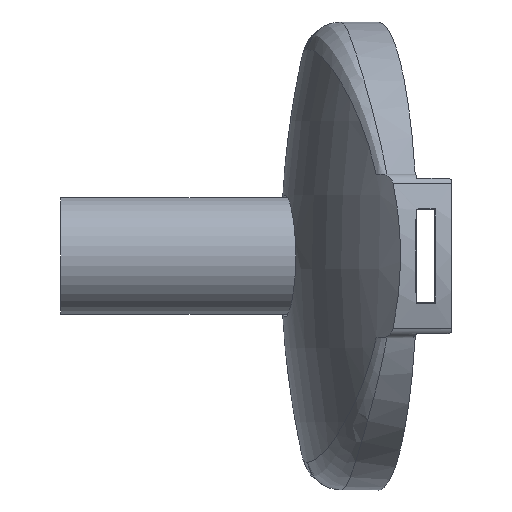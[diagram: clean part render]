
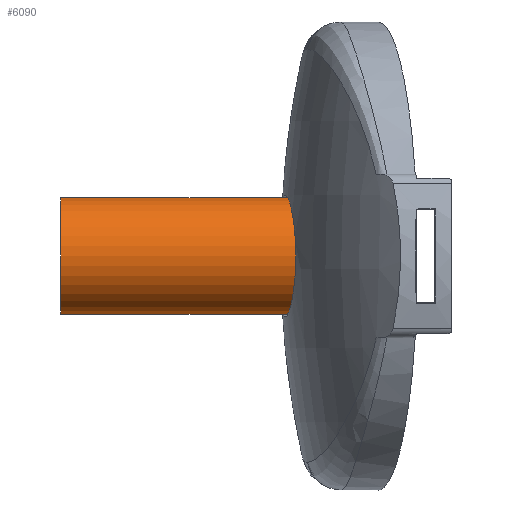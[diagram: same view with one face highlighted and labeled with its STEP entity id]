
A CAD part, left-side view. The second image highlights one B-rep face of the part: STEP entity #6090.
In plain terms, the highlighted cylindrical face has radius 12.5 mm (diameter 25 mm), a partial arc.
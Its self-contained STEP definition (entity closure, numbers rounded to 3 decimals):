
#67 = EDGE_CURVE ( 'NONE', #7970, #6745, #4423, .T. ) ;
#219 = CARTESIAN_POINT ( 'NONE',  ( 0., 0., 0. ) ) ;
#283 = CARTESIAN_POINT ( 'NONE',  ( 0., 60.746, 12.5 ) ) ;
#339 = DIRECTION ( 'NONE',  ( 0., 1., 0. ) ) ;
#544 = EDGE_CURVE ( 'NONE', #7970, #11025, #11730, .T. ) ;
#1193 = VECTOR ( 'NONE', #12250, 1000. ) ;
#1376 = CARTESIAN_POINT ( 'NONE',  ( 0., 0., 12.5 ) ) ;
#1421 = CARTESIAN_POINT ( 'NONE',  ( 0., 60.746, 0. ) ) ;
#1447 = DIRECTION ( 'NONE',  ( 0., 0., 1. ) ) ;
#3186 = ORIENTED_EDGE ( 'NONE', *, *, #544, .T. ) ;
#3192 = VECTOR ( 'NONE', #339, 1000. ) ;
#3382 = EDGE_LOOP ( 'NONE', ( #13459, #3186, #11037, #15512 ) ) ;
#4423 = LINE ( 'NONE', #12233, #1193 ) ;
#4450 = CYLINDRICAL_SURFACE ( 'NONE', #10320, 12.5 ) ;
#4937 = CARTESIAN_POINT ( 'NONE',  ( 0., -51., 12.5 ) ) ;
#6090 = ADVANCED_FACE ( 'NONE', ( #9015 ), #4450, .T. ) ;
#6745 = VERTEX_POINT ( 'NONE', #11290 ) ;
#7805 = CARTESIAN_POINT ( 'NONE',  ( 0., -51., -12.5 ) ) ;
#7835 = EDGE_CURVE ( 'NONE', #6745, #8114, #15041, .T. ) ;
#7970 = VERTEX_POINT ( 'NONE', #7805 ) ;
#8114 = VERTEX_POINT ( 'NONE', #1376 ) ;
#8663 = DIRECTION ( 'NONE',  ( 0., 0., 1. ) ) ;
#8674 = DIRECTION ( 'NONE',  ( 0., 1., 0. ) ) ;
#8693 = CARTESIAN_POINT ( 'NONE',  ( 0., -51., 0. ) ) ;
#8888 = DIRECTION ( 'NONE',  ( 0., 0., 1. ) ) ;
#8916 = DIRECTION ( 'NONE',  ( 0., 1., 0. ) ) ;
#9015 = FACE_OUTER_BOUND ( 'NONE', #3382, .T. ) ;
#9896 = LINE ( 'NONE', #283, #3192 ) ;
#10320 = AXIS2_PLACEMENT_3D ( 'NONE', #1421, #11423, #8888 ) ;
#11025 = VERTEX_POINT ( 'NONE', #4937 ) ;
#11037 = ORIENTED_EDGE ( 'NONE', *, *, #13635, .T. ) ;
#11251 = AXIS2_PLACEMENT_3D ( 'NONE', #219, #8916, #1447 ) ;
#11290 = CARTESIAN_POINT ( 'NONE',  ( 0., 0., -12.5 ) ) ;
#11423 = DIRECTION ( 'NONE',  ( 0., 1., 0. ) ) ;
#11730 = CIRCLE ( 'NONE', #15680, 12.5 ) ;
#12233 = CARTESIAN_POINT ( 'NONE',  ( 0., 60.746, -12.5 ) ) ;
#12250 = DIRECTION ( 'NONE',  ( 0., 1., 0. ) ) ;
#13459 = ORIENTED_EDGE ( 'NONE', *, *, #67, .F. ) ;
#13635 = EDGE_CURVE ( 'NONE', #11025, #8114, #9896, .T. ) ;
#15041 = CIRCLE ( 'NONE', #11251, 12.5 ) ;
#15512 = ORIENTED_EDGE ( 'NONE', *, *, #7835, .F. ) ;
#15680 = AXIS2_PLACEMENT_3D ( 'NONE', #8693, #8674, #8663 ) ;
